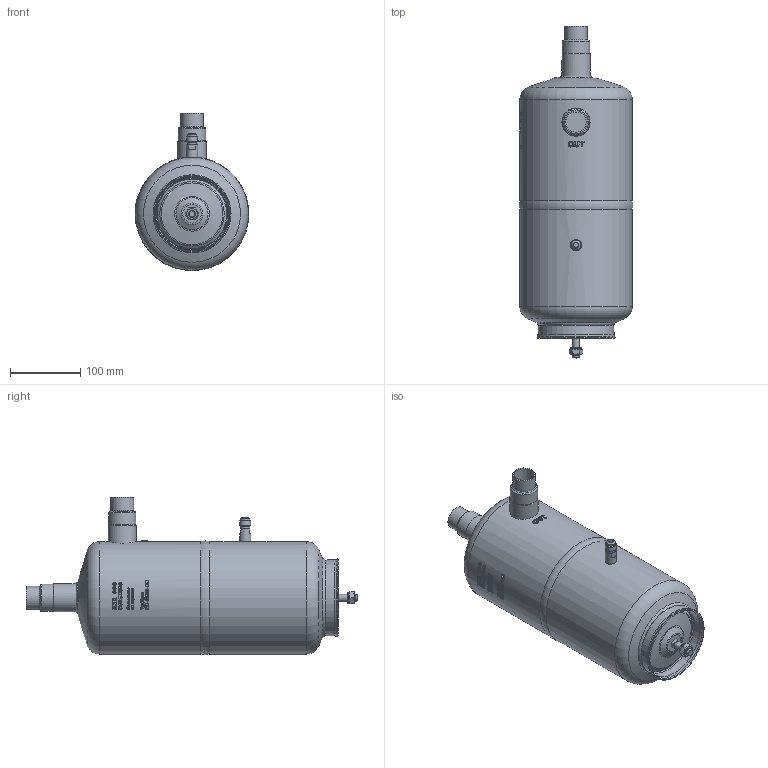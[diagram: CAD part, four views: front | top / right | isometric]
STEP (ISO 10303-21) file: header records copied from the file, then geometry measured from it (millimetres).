
FILE_DESCRIPTION(/* description */ (''),/* implementation_level */ '2;1');
FILE_NAME(/* name */ 'P:\OS\OS-35_28-CD\OS-35_28-CD.stp',/* time_stamp */ '2017-10-04T08:03:04+02:00',/* author */ ('neufeld'),/* organization */ (''),/* preprocessor_version */ 'ST-DEVELOPER v16.1',/* originating_system */ 'Autodesk Inventor 2016',/* authorisation */ '');
FILE_SCHEMA (('AUTOMOTIVE_DESIGN { 1 0 10303 214 3 1 1 }'));
Length unit declared in the file: millimetre
Products named in the file (2): OS-35_28-CD; OS-35_28-CD_1
Assembly tree (1 placements, depth 2):
  OS-35_28-CD_1
    OS-35_28-CD
Bounding box: 161.9 x 472.64 x 223.9 mm (x, y, z)
Volume: 6986682.7 mm3; surface area: 238624 mm2
Topology: 1 solids, 1 shells, 1076 faces, 2890 edges, 1914 vertices
Faces by surface type: plane 529, bspline 400, cylinder 106, cone 21, torus 15, sphere 5
Full cylindrical faces by diameter (mm): 7.2 x1, 10 x2, 12.9 x1, 13.5 x1, 15.7 x1, 16 x1, 28.7 x2, 32.5 x2, 39 x2, 40 x2, 160 x2
Entity records: 42062 total; most frequent: CARTESIAN_POINT 17465, ORIENTED_EDGE 5648, DIRECTION 4098, EDGE_CURVE 2824, VERTEX_POINT 1900, AXIS2_PLACEMENT_3D 1419, LINE 1260, VECTOR 1260
